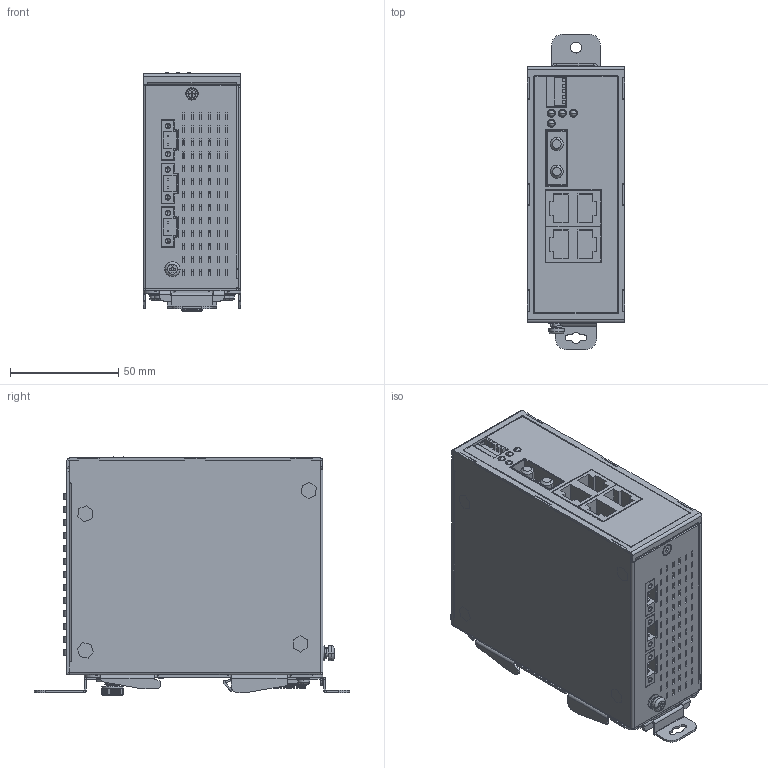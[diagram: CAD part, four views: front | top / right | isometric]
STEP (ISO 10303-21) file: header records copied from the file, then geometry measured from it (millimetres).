
FILE_DESCRIPTION((''),'2;1');
FILE_NAME('DVS-005W01-SC01-R_ASM','2014-12-08T',('ANDREW.AS.SUN'),(''),'PRO/ENGINEER BY PARAMETRIC TECHNOLOGY CORPORATION, 2010280','PRO/ENGINEER BY PARAMETRIC TECHNOLOGY CORPORATION, 2010280','');
FILE_SCHEMA(('CONFIG_CONTROL_DESIGN'));
Products named in the file (29): 3991141100_COVER; 3991141500_PANEL; PCB-M-8P; DIN-SWITCH-5PIN; 1X3_G-G; 1X1_LED; OPT-155B; TB293; 307229417C; _DVS-005W01-MC01-R_20120425_BOT; PRT0001; DVS-005W01-SC01-R_PCB-ASSY_ASM; 3991140800_BASE-----; STUD_M3_0; STUD_M3_0-S; 3991140800_BASE_ASM; 3205278000_NAMEPLATE; 3105460500; SCREW_M4; 3100320300-SCREW; 3246087000_INSULATOR; BACK_PLATE_2; SNAP; SPRING; SNAP_2; 46-111-501-1_20100903_; SNAP2_ASM; 3534306500_ME-KIT_ASM; DVS-005W01-SC01-R_ASM
Assembly tree (43 placements, depth 4):
  DVS-005W01-SC01-R_ASM
    3991141100_COVER
    3991141500_PANEL
    DVS-005W01-SC01-R_PCB-ASSY_ASM
      PCB-M-8P
      DIN-SWITCH-5PIN
      1X3_G-G
      1X1_LED
      OPT-155B
      TB293  x3
      307229417C  x2
      _DVS-005W01-MC01-R_20120425_BOT
      PRT0001
    3991140800_BASE_ASM
      3991140800_BASE-----
      STUD_M3_0  x2
      STUD_M3_0-S  x2
    3205278000_NAMEPLATE
    3105460500  x8
    SCREW_M4
    3100320300-SCREW  x4
    3246087000_INSULATOR
    3534306500_ME-KIT_ASM
      BACK_PLATE_2
      SNAP
      SPRING
      SNAP2_ASM
        SNAP_2
        46-111-501-1_20100903_
Bounding box: 45 x 145.3 x 110.12 mm (x, y, z)
Volume: 106337.7 mm3; surface area: 182595.9 mm2
Topology: 37 solids, 48 shells, 3333 faces, 8577 edges, 5407 vertices
Faces by surface type: plane 1886, cylinder 1044, bspline 233, cone 114, torus 48, sphere 8
Entity records: 95137 total; most frequent: CARTESIAN_POINT 31039, ORIENTED_EDGE 13277, DIRECTION 12956, EDGE_CURVE 6668, VECTOR 4476, LINE 4476, AXIS2_PLACEMENT_3D 4240, VERTEX_POINT 4203
